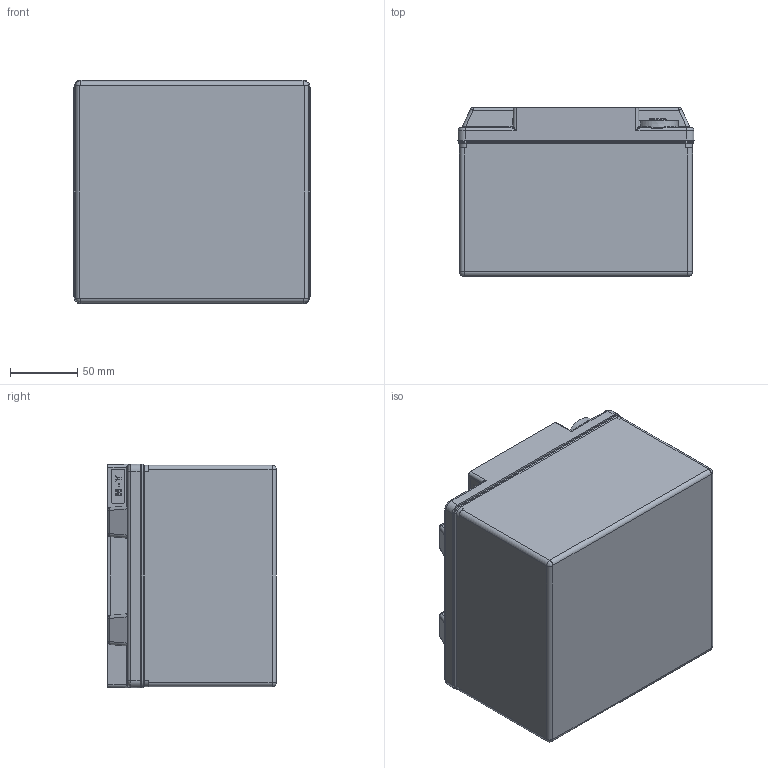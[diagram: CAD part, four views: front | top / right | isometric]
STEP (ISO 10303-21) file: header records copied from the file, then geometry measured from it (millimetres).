
FILE_DESCRIPTION (( 'STEP AP203' ), '1' );
FILE_NAME ('ODS-AGM28.STEP', '2024-03-25T15:37:45', ( '' ), ( '' ), 'SwSTEP 2.0', 'SolidWorks 2022', '' );
FILE_SCHEMA (( 'CONFIG_CONTROL_DESIGN' ));
Length unit declared in the file: inch
Products named in the file (1): ODS-AGM28
Bounding box: 175.01 x 125.02 x 165.99 mm (x, y, z)
Volume: 909686 mm3; surface area: 515748.4 mm2
Topology: 9 solids, 9 shells, 1211 faces, 2807 edges, 1556 vertices
Faces by surface type: cylinder 417, plane 353, bspline 240, torus 121, sphere 50, cone 30
Full cylindrical faces by diameter (mm): 3.81 x1, 6.35 x2, 7.62 x1, 10.668 x2, 12.7 x8, 13.208 x4, 17.78 x2, 25.273 x2
Entity records: 38314 total; most frequent: CARTESIAN_POINT 13327, ORIENTED_EDGE 5306, DIRECTION 5054, EDGE_CURVE 2653, AXIS2_PLACEMENT_3D 1929, VERTEX_POINT 1531, EDGE_LOOP 1292, FACE_OUTER_BOUND 1240
